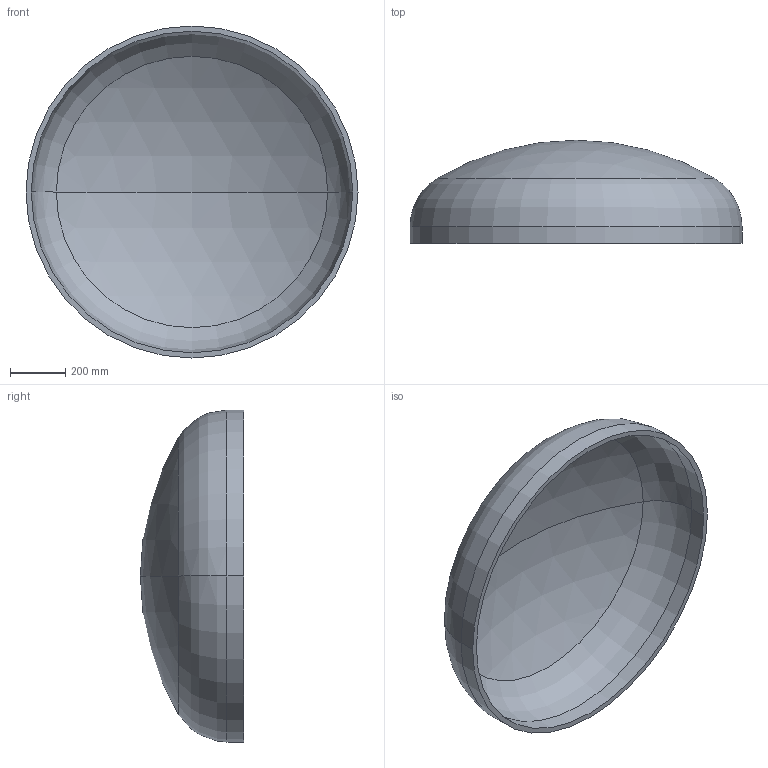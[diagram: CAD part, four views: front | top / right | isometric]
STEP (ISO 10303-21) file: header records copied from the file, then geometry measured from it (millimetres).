
FILE_DESCRIPTION (( 'STEP AP203' ), '1' );
FILE_NAME ('DIN 28013 Korbbogenform_-_Boden DIN 28013 - 1200 x 60 - I - s=19.step', '2016-07-01T09:22:53', ( '' ), ( '' ), 'SwSTEP 2.0', 'SolidWorks 2013', '' );
FILE_SCHEMA (( 'CONFIG_CONTROL_DESIGN' ));
Length unit declared in the file: millimetre
Products named in the file (1): DIN 28013 Korbbogenform_-_Boden DIN 28013 - 1200 x 60 - I - s=19
Bounding box: 1200 x 372.81 x 1200 mm (x, y, z)
Volume: 33381580.1 mm3; surface area: 3585099.6 mm2
Topology: 1 solids, 1 shells, 13 faces, 24 edges, 14 vertices
Faces by surface type: torus 4, cylinder 4, sphere 4, plane 1
Entity records: 407 total; most frequent: DIRECTION 72, CARTESIAN_POINT 52, ORIENTED_EDGE 48, AXIS2_PLACEMENT_3D 34, EDGE_CURVE 24, CIRCLE 20, EDGE_LOOP 14, VERTEX_POINT 14
